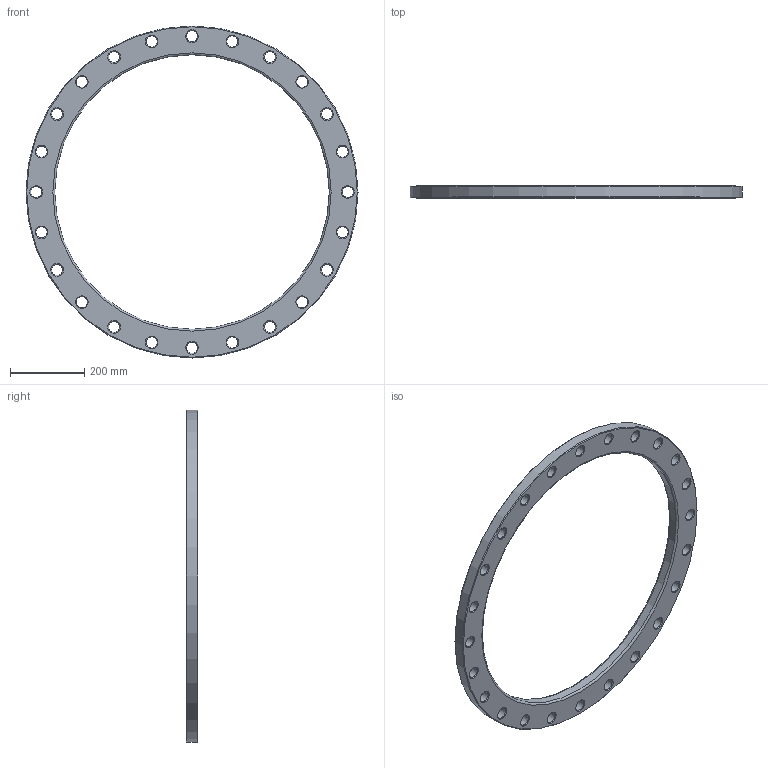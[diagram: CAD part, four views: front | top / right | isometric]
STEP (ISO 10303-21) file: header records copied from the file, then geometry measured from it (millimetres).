
FILE_DESCRIPTION(/* description */ ('Unknown'),/* implementation_level */ '2;1');
FILE_NAME(/* name */ 'FZ710B',/* time_stamp */ '2021-03-15T11:04:51+01:00',/* author */ ('Unknown'),/* organization */ ('Unknown'),/* preprocessor_version */ 'ST-DEVELOPER v16.7',/* originating_system */ 'Solid Edge',/* authorisation */ 'Unknown');
FILE_SCHEMA (('AUTOMOTIVE_DESIGN {1 0 10303 214 3 1 1}'));
Length unit declared in the file: millimetre
Products named in the file (1): FZ710B
Bounding box: 895 x 32 x 895 mm (x, y, z)
Volume: 5780697.3 mm3; surface area: 579295.6 mm2
Topology: 1 solids, 1 shells, 80 faces, 254 edges, 176 vertices
Faces by surface type: cone 50, cylinder 26, plane 2, torus 2
Full cylindrical faces by diameter (mm): 30 x24, 740 x1, 895 x1
Entity records: 1974 total; most frequent: DIRECTION 370, CARTESIAN_POINT 289, ORIENTED_EDGE 208, EDGE_LOOP 208, FACE_BOUND 208, AXIS2_PLACEMENT_3D 185, EDGE_CURVE 104, VERTEX_POINT 104
